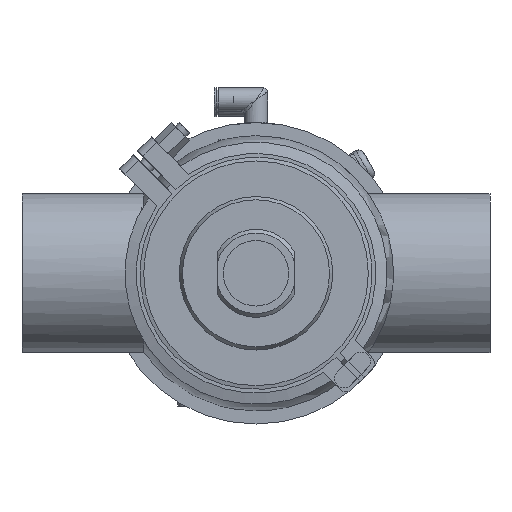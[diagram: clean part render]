
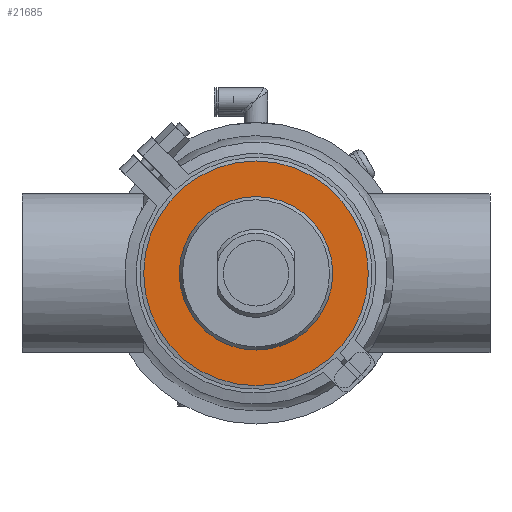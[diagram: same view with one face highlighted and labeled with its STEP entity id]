
A CAD part, front view. The second image highlights one B-rep face of the part: STEP entity #21685.
In plain terms, the highlighted planar face has unit normal (0, -1, 0).
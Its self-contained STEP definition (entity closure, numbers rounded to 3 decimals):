
#1859 = CARTESIAN_POINT ( 'NONE',  ( 0., -13., 60. ) ) ;
#2029 = ORIENTED_EDGE ( 'NONE', *, *, #38524, .F. ) ;
#4379 = PLANE ( 'NONE',  #51687 ) ;
#8384 = CARTESIAN_POINT ( 'NONE',  ( 0., -13., 0. ) ) ;
#12596 = CARTESIAN_POINT ( 'NONE',  ( 0., -13., 0. ) ) ;
#13074 = FACE_BOUND ( 'NONE', #53536, .T. ) ;
#21685 = ADVANCED_FACE ( 'NONE', ( #13074, #22983 ), #4379, .T. ) ;
#22983 = FACE_OUTER_BOUND ( 'NONE', #57295, .T. ) ;
#28630 = AXIS2_PLACEMENT_3D ( 'NONE', #8384, #46817, #47756 ) ;
#29872 = CARTESIAN_POINT ( 'NONE',  ( 0., -13., 41. ) ) ;
#31031 = VERTEX_POINT ( 'NONE', #1859 ) ;
#32776 = CIRCLE ( 'NONE', #28630, 60. ) ;
#34955 = VERTEX_POINT ( 'NONE', #29872 ) ;
#35424 = AXIS2_PLACEMENT_3D ( 'NONE', #12596, #51641, #56464 ) ;
#37711 = DIRECTION ( 'NONE',  ( 0., 0., -1. ) ) ;
#38027 = DIRECTION ( 'NONE',  ( 0., -1., 0. ) ) ;
#38524 = EDGE_CURVE ( 'NONE', #31031, #31031, #32776, .T. ) ;
#46817 = DIRECTION ( 'NONE',  ( 0., 1., 0. ) ) ;
#47756 = DIRECTION ( 'NONE',  ( 0., 0., 1. ) ) ;
#51641 = DIRECTION ( 'NONE',  ( 0., 1., 0. ) ) ;
#51687 = AXIS2_PLACEMENT_3D ( 'NONE', #63342, #38027, #37711 ) ;
#53536 = EDGE_LOOP ( 'NONE', ( #62779 ) ) ;
#56464 = DIRECTION ( 'NONE',  ( 0., 0., 1. ) ) ;
#57295 = EDGE_LOOP ( 'NONE', ( #2029 ) ) ;
#62779 = ORIENTED_EDGE ( 'NONE', *, *, #63417, .T. ) ;
#63064 = CIRCLE ( 'NONE', #35424, 41. ) ;
#63342 = CARTESIAN_POINT ( 'NONE',  ( -60., -13., 0. ) ) ;
#63417 = EDGE_CURVE ( 'NONE', #34955, #34955, #63064, .T. ) ;
